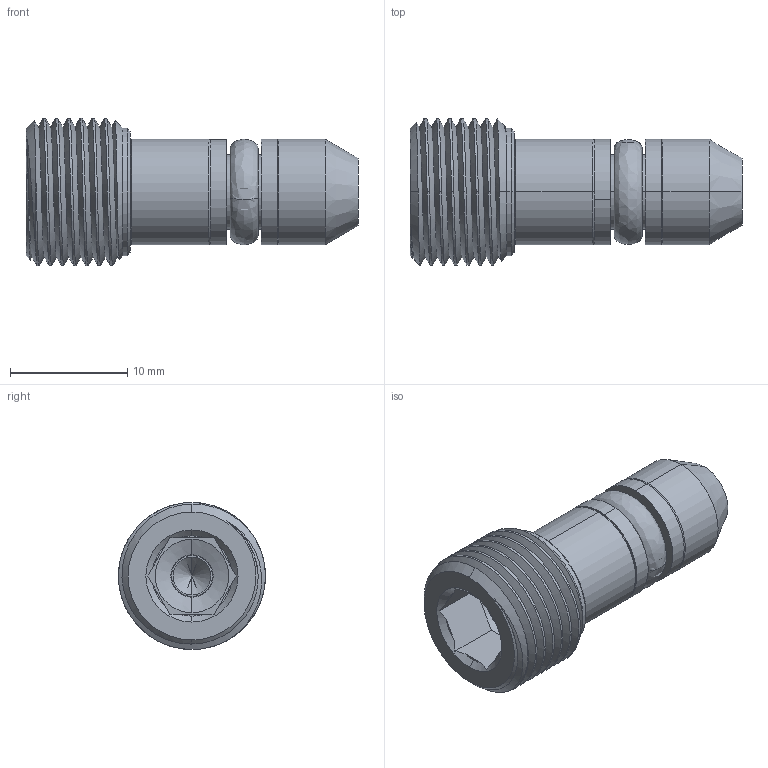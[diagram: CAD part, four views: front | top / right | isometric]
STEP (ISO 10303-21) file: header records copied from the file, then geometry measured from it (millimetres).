
FILE_DESCRIPTION (( 'STEP AP214' ), '1' );
FILE_NAME ('PLAA5020220A.STEP', '2021-10-20T20:34:42', ( '' ), ( '' ), 'SwSTEP 2.0', 'SolidWorks 2021', '' );
FILE_SCHEMA (( 'AUTOMOTIVE_DESIGN' ));
Length unit declared in the file: inch
Products named in the file (5): PLAD0100220; PLAD0100360_A; PLAA5020220A; HDPD0208610_A; HDPD0208710_A
Assembly tree (6 placements, depth 2):
  PLAA5020220A
    PLAD0100360_A  x2
    HDPD0208710_A  x2
    PLAD0100220
    HDPD0208610_A
Bounding box: 28.37 x 12.56 x 12.56 mm (x, y, z)
Volume: 2885.6 mm3; surface area: 2669 mm2
Topology: 6 solids, 6 shells, 135 faces, 300 edges, 182 vertices
Faces by surface type: cylinder 50, plane 31, cone 28, torus 20, bspline 6
Entity records: 4025 total; most frequent: CARTESIAN_POINT 1692, DIRECTION 459, ORIENTED_EDGE 440, EDGE_CURVE 220, AXIS2_PLACEMENT_3D 193, VERTEX_POINT 137, EDGE_LOOP 107, FACE_OUTER_BOUND 96
